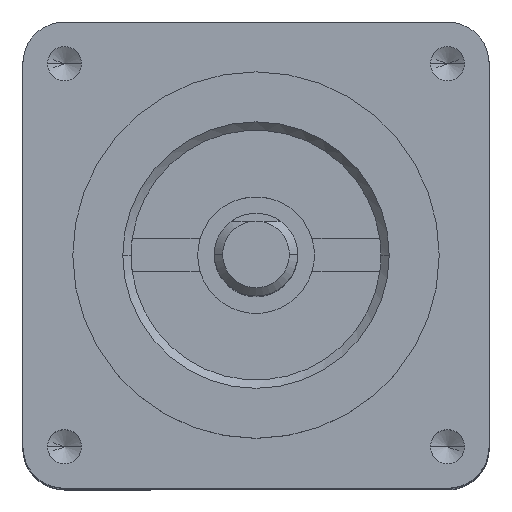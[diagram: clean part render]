
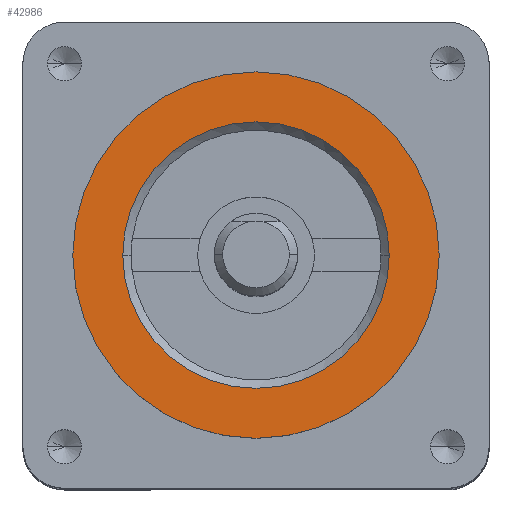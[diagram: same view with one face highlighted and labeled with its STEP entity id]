
A CAD part, top view. The second image highlights one B-rep face of the part: STEP entity #42986.
In plain terms, the highlighted planar face has unit normal (0, 0, 1).
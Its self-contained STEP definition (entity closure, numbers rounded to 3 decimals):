
#276 = DIRECTION ( 'NONE',  ( 0., 0., 1. ) ) ;
#347 = EDGE_LOOP ( 'NONE', ( #65055, #56243 ) ) ;
#2305 = CARTESIAN_POINT ( 'NONE',  ( 8., 0., 42. ) ) ;
#2311 = ORIENTED_EDGE ( 'NONE', *, *, #35960, .T. ) ;
#3296 = DIRECTION ( 'NONE',  ( 1., 0., 0. ) ) ;
#5329 = PLANE ( 'NONE',  #61968 ) ;
#8482 = CARTESIAN_POINT ( 'NONE',  ( 0., 0., 42. ) ) ;
#9661 = CARTESIAN_POINT ( 'NONE',  ( 11., 0., 42. ) ) ;
#14090 = DIRECTION ( 'NONE',  ( 1., 0., 0. ) ) ;
#17593 = AXIS2_PLACEMENT_3D ( 'NONE', #45616, #276, #20495 ) ;
#18592 = CARTESIAN_POINT ( 'NONE',  ( -11., 0., 42. ) ) ;
#20495 = DIRECTION ( 'NONE',  ( 1., 0., 0. ) ) ;
#20659 = CARTESIAN_POINT ( 'NONE',  ( -8., 0., 42. ) ) ;
#21526 = DIRECTION ( 'NONE',  ( 0., 0., 1. ) ) ;
#27812 = DIRECTION ( 'NONE',  ( 0., 0., 1. ) ) ;
#29243 = CIRCLE ( 'NONE', #49301, 8. ) ;
#30580 = VERTEX_POINT ( 'NONE', #20659 ) ;
#31772 = CARTESIAN_POINT ( 'NONE',  ( 0., 0., 42. ) ) ;
#33926 = VERTEX_POINT ( 'NONE', #18592 ) ;
#35784 = VERTEX_POINT ( 'NONE', #2305 ) ;
#35960 = EDGE_CURVE ( 'NONE', #56690, #33926, #49922, .T. ) ;
#36079 = FACE_BOUND ( 'NONE', #347, .T. ) ;
#39325 = AXIS2_PLACEMENT_3D ( 'NONE', #53288, #64490, #53618 ) ;
#42908 = CIRCLE ( 'NONE', #17593, 11. ) ;
#42986 = ADVANCED_FACE ( 'NONE', ( #36079, #50665 ), #5329, .T. ) ;
#44446 = EDGE_CURVE ( 'NONE', #33926, #56690, #42908, .T. ) ;
#45616 = CARTESIAN_POINT ( 'NONE',  ( 0., 0., 42. ) ) ;
#47064 = CIRCLE ( 'NONE', #52371, 8. ) ;
#49301 = AXIS2_PLACEMENT_3D ( 'NONE', #31772, #21526, #56886 ) ;
#49922 = CIRCLE ( 'NONE', #39325, 11. ) ;
#50665 = FACE_OUTER_BOUND ( 'NONE', #53291, .T. ) ;
#50793 = ORIENTED_EDGE ( 'NONE', *, *, #44446, .T. ) ;
#52371 = AXIS2_PLACEMENT_3D ( 'NONE', #8482, #65000, #14090 ) ;
#53288 = CARTESIAN_POINT ( 'NONE',  ( 0., 0., 42. ) ) ;
#53291 = EDGE_LOOP ( 'NONE', ( #50793, #2311 ) ) ;
#53618 = DIRECTION ( 'NONE',  ( 1., 0., 0. ) ) ;
#54778 = EDGE_CURVE ( 'NONE', #30580, #35784, #47064, .T. ) ;
#55998 = EDGE_CURVE ( 'NONE', #35784, #30580, #29243, .T. ) ;
#56243 = ORIENTED_EDGE ( 'NONE', *, *, #54778, .F. ) ;
#56690 = VERTEX_POINT ( 'NONE', #9661 ) ;
#56886 = DIRECTION ( 'NONE',  ( 1., 0., 0. ) ) ;
#58563 = CARTESIAN_POINT ( 'NONE',  ( 0., 0., 42. ) ) ;
#61968 = AXIS2_PLACEMENT_3D ( 'NONE', #58563, #27812, #3296 ) ;
#64490 = DIRECTION ( 'NONE',  ( 0., 0., 1. ) ) ;
#65000 = DIRECTION ( 'NONE',  ( 0., 0., 1. ) ) ;
#65055 = ORIENTED_EDGE ( 'NONE', *, *, #55998, .F. ) ;
